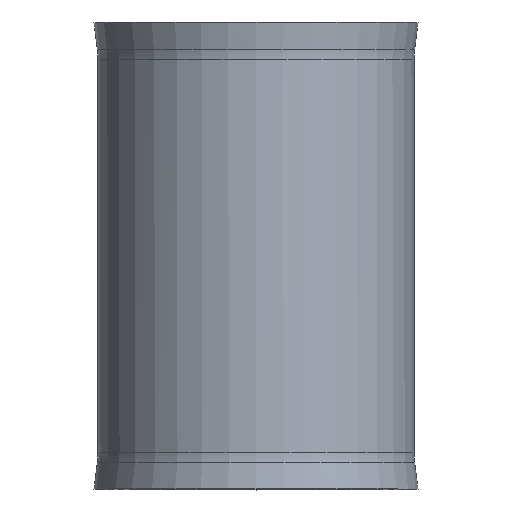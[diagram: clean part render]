
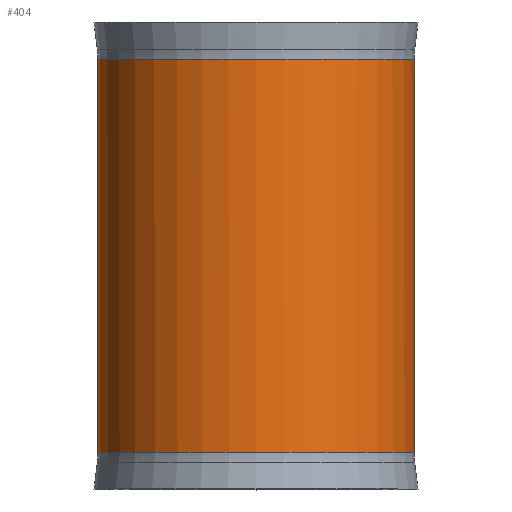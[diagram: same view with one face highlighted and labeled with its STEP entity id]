
A CAD part, top view. The second image highlights one B-rep face of the part: STEP entity #404.
In plain terms, the highlighted cylindrical face has radius 40 mm (diameter 80 mm), a partial arc.
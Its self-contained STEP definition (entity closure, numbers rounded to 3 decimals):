
#1=CARTESIAN_POINT('',(0.,49.755,0.));
#2=DIRECTION('',(0.,-1.,0.));
#3=DIRECTION('',(1.,0.,0.));
#4=AXIS2_PLACEMENT_3D('',#1,#2,#3);
#6=CARTESIAN_POINT('',(0.,49.755,0.));
#7=DIRECTION('',(0.,-1.,0.));
#8=DIRECTION('',(1.,0.,0.006));
#9=AXIS2_PLACEMENT_3D('',#6,#7,#8);
#51=DIRECTION('',(0.,-1.,0.));
#52=VECTOR('',#51,99.51);
#53=CARTESIAN_POINT('',(-40.,49.755,0.));
#54=LINE('',#53,#52);
#55=DIRECTION('',(0.,1.,0.));
#56=VECTOR('',#55,99.51);
#57=CARTESIAN_POINT('',(40.,-49.755,0.));
#58=LINE('',#57,#56);
#84=CARTESIAN_POINT('',(0.,-49.755,0.));
#85=DIRECTION('',(0.,1.,0.));
#86=DIRECTION('',(-1.,0.,0.));
#87=AXIS2_PLACEMENT_3D('',#84,#85,#86);
#89=CARTESIAN_POINT('',(0.,-49.755,0.));
#90=DIRECTION('',(0.,1.,0.));
#91=DIRECTION('',(-1.,0.,0.006));
#92=AXIS2_PLACEMENT_3D('',#89,#90,#91);
#305=CARTESIAN_POINT('',(39.999,49.755,0.252));
#306=CARTESIAN_POINT('',(-40.,49.755,0.));
#307=VERTEX_POINT('',#305);
#308=VERTEX_POINT('',#306);
#309=CARTESIAN_POINT('',(40.,49.755,0.));
#310=VERTEX_POINT('',#309);
#311=CARTESIAN_POINT('',(40.,-49.755,0.));
#312=VERTEX_POINT('',#311);
#313=CARTESIAN_POINT('',(-39.999,-49.755,
0.245));
#314=VERTEX_POINT('',#313);
#315=CARTESIAN_POINT('',(-40.,-49.755,0.));
#316=VERTEX_POINT('',#315);
#385=CARTESIAN_POINT('',(0.,0.,0.));
#386=DIRECTION('',(0.,1.,0.));
#387=DIRECTION('',(1.,0.,0.));
#388=AXIS2_PLACEMENT_3D('',#385,#386,#387);
#389=CYLINDRICAL_SURFACE('',#388,40.);
#391=ORIENTED_EDGE('',*,*,#390,.F.);
#393=ORIENTED_EDGE('',*,*,#392,.F.);
#395=ORIENTED_EDGE('',*,*,#394,.F.);
#397=ORIENTED_EDGE('',*,*,#396,.F.);
#399=ORIENTED_EDGE('',*,*,#398,.F.);
#401=ORIENTED_EDGE('',*,*,#400,.F.);
#402=EDGE_LOOP('',(#391,#393,#395,#397,#399,#401));
#403=FACE_OUTER_BOUND('',#402,.F.);
#404=ADVANCED_FACE('',(#403),#389,.T.);
#5=CIRCLE('',#4,40.);
#10=CIRCLE('',#9,40.);
#88=CIRCLE('',#87,40.);
#93=CIRCLE('',#92,40.);
#390=EDGE_CURVE('',#307,#308,#10,.T.);
#392=EDGE_CURVE('',#310,#307,#5,.T.);
#394=EDGE_CURVE('',#312,#310,#58,.T.);
#396=EDGE_CURVE('',#314,#312,#93,.T.);
#398=EDGE_CURVE('',#316,#314,#88,.T.);
#400=EDGE_CURVE('',#308,#316,#54,.T.);
